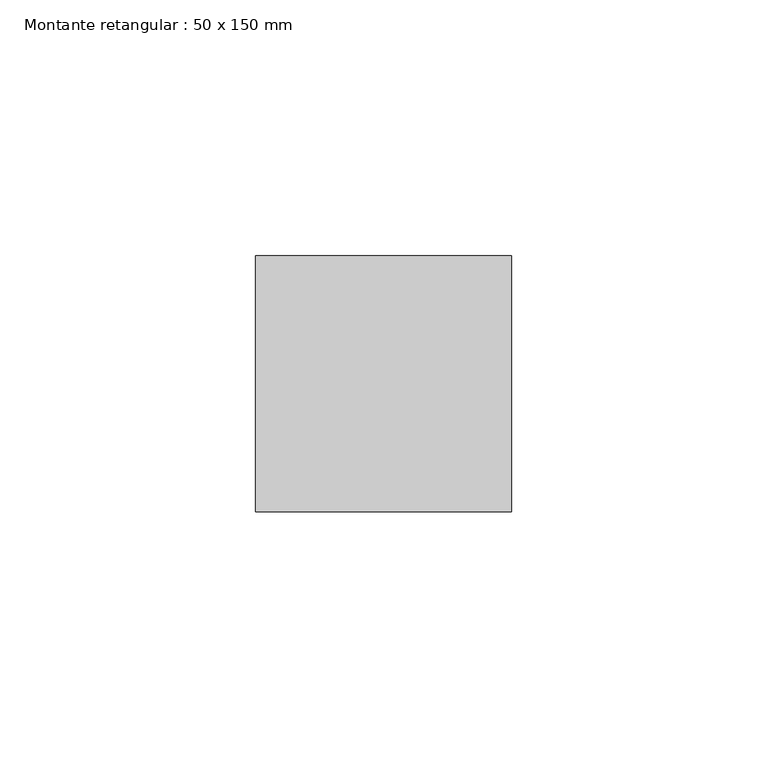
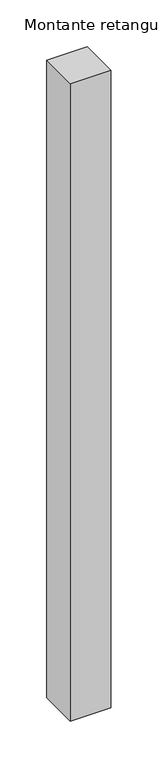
"""IFC4 building model written with IfcOpenShell, lengths in millimetres: member geometry, Montante retangular : 50 x 150 mm."""

from ifc_helpers import new_model, si_unit, frame, origin, place, context, project, spatial, polyline, outline, extrude, source, transform, mapped, element, save


def montante_retangular_50_x_150_mm_f0992e8b(model_context):
    return source(origin(), model_context, "Body", "SweptSolid", [
        extrude(outline(polyline([(0.0, 25.0), (0.0, -25.0), (-50.0, -25.0), (-50.0, 25.0), (0.0, 25.0)])), frame((0.0, 0.0, -830.0), z_axis=(0.0, 0.0, 1.0), x_axis=(1.0, 0.0, 0.0)), (0.0, 0.0, 1.0), 830.0),
    ])


if __name__ == "__main__":
    model = new_model("IFC4")
    model_context = context("Model", 3, world=origin())
    ifc_project = project(units=[si_unit("LENGTHUNIT", "METRE", prefix="MILLI")], contexts=[model_context])
    site = spatial("IfcSite", under=ifc_project)
    building = spatial("IfcBuilding", under=site)
    placement = place(None, origin())
    montante_retangular_50_x_150_mm_shape = montante_retangular_50_x_150_mm_f0992e8b(model_context)
    element("IfcMember", 1, ObjectType="Montante retangular : 50 x 150 mm", at=placement, inside=building, context=model_context, shape_type="MappedRepresentation", body=[
        mapped(montante_retangular_50_x_150_mm_shape, transform((0.0, 0.0, 0.0), x_axis=(1.0, 0.0, 0.0), y_axis=(0.0, 1.0, 0.0), z_axis=(0.0, 0.0, 1.0))),
    ])
    save(model, "model.ifc")
